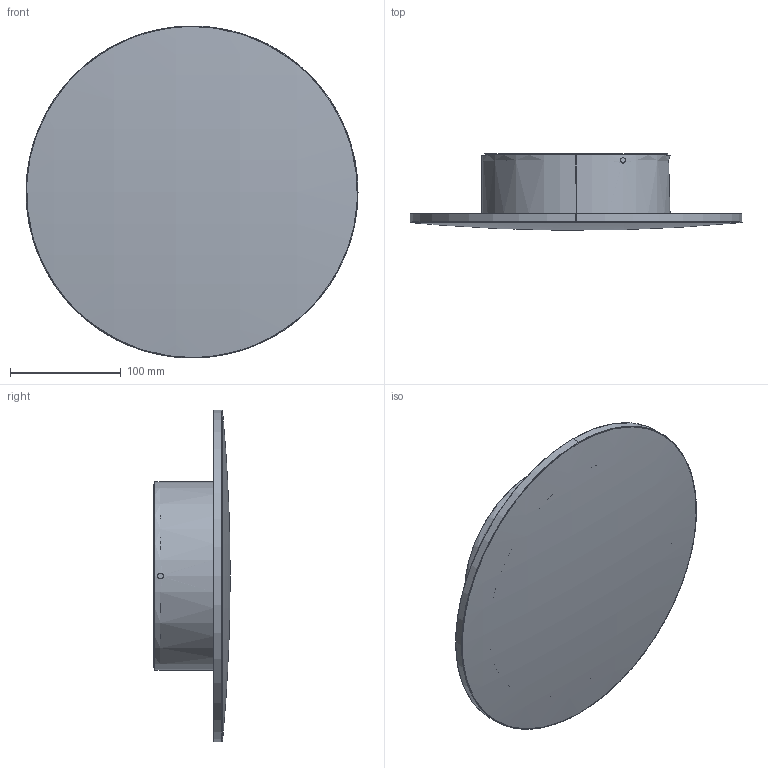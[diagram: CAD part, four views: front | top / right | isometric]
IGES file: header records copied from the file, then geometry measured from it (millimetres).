
Start section: SolidWorks IGES file using analytic representation for surfaces
Global section: file name: C:\Users\anna.bielnik\Desktop\ARIA-LED-XL\aria xl.IGS; native system: SolidWorks 2023; preprocessor: SolidWorks 2023; author: anna.bielnik; date: 241106.134222; units: millimetre
Bounding box: 300 x 68.93 x 300 mm (x, y, z)
Surface area: 433609.2 mm2 (no closed solid volume)
Topology: 0 solids, 0 shells, 75 faces, 1918 edges, 1918 vertices
Faces by surface type: bspline 38, revolution 37
